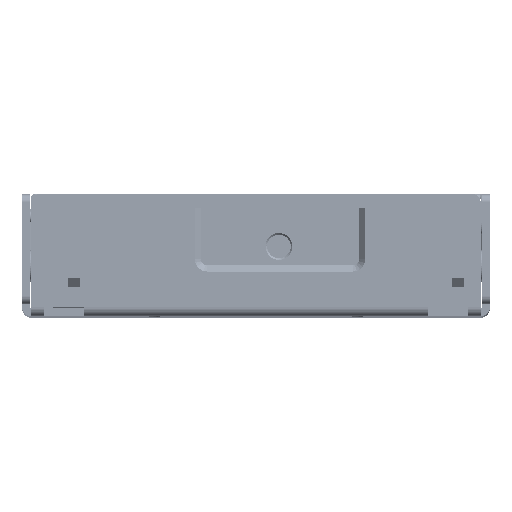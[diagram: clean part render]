
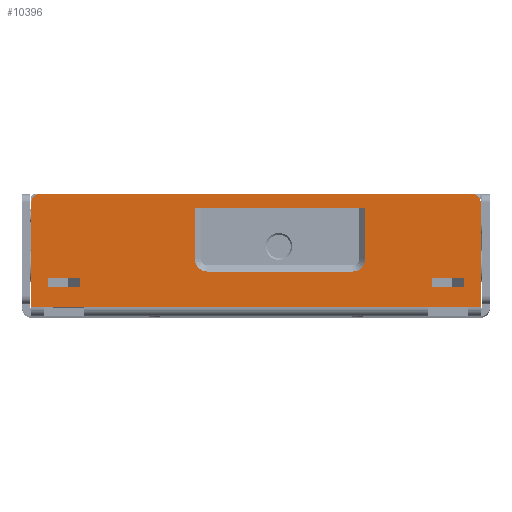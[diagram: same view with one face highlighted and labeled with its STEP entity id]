
A CAD part, top view. The second image highlights one B-rep face of the part: STEP entity #10396.
In plain terms, the highlighted planar face has unit normal (0, 0, 1).
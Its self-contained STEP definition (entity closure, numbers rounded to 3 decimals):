
#842=DIRECTION('',(1.,0.,0.));
#843=VECTOR('',#842,84.56);
#844=CARTESIAN_POINT('',(-42.28,2.3,107.5));
#845=LINE('',#844,#843);
#860=DIRECTION('',(1.,0.,0.));
#861=VECTOR('',#860,9.84);
#862=CARTESIAN_POINT('',(42.28,2.3,107.5));
#863=LINE('',#862,#861);
#868=DIRECTION('',(0.,1.,0.));
#869=VECTOR('',#868,0.7);
#870=CARTESIAN_POINT('',(-55.2,2.3,107.5));
#871=LINE('',#870,#869);
#872=CARTESIAN_POINT('',(-53.2,28.,107.5));
#873=DIRECTION('',(0.,0.,-1.));
#874=DIRECTION('',(-1.,0.,0.));
#875=AXIS2_PLACEMENT_3D('',#872,#873,#874);
#877=CARTESIAN_POINT('',(53.2,28.,107.5));
#878=DIRECTION('',(0.,0.,-1.));
#879=DIRECTION('',(0.,1.,0.));
#880=AXIS2_PLACEMENT_3D('',#877,#878,#879);
#882=DIRECTION('',(0.,-1.,0.));
#883=VECTOR('',#882,2.);
#884=CARTESIAN_POINT('',(-51.2,9.3,107.5));
#885=LINE('',#884,#883);
#886=DIRECTION('',(1.,0.,0.));
#887=VECTOR('',#886,8.);
#888=CARTESIAN_POINT('',(-51.2,7.3,107.5));
#889=LINE('',#888,#887);
#890=CARTESIAN_POINT('',(-12.,14.,107.5));
#891=DIRECTION('',(0.,0.,1.));
#892=DIRECTION('',(-1.,0.,0.));
#893=AXIS2_PLACEMENT_3D('',#890,#891,#892);
#895=CARTESIAN_POINT('',(23.8,14.,107.5));
#896=DIRECTION('',(0.,0.,1.));
#897=DIRECTION('',(0.,-1.,0.));
#898=AXIS2_PLACEMENT_3D('',#895,#896,#897);
#900=DIRECTION('',(0.,-1.,0.));
#901=VECTOR('',#900,2.);
#902=CARTESIAN_POINT('',(43.2,9.3,107.5));
#903=LINE('',#902,#901);
#904=DIRECTION('',(1.,0.,0.));
#905=VECTOR('',#904,8.);
#906=CARTESIAN_POINT('',(43.2,7.3,107.5));
#907=LINE('',#906,#905);
#908=DIRECTION('',(1.,0.,0.));
#909=VECTOR('',#908,9.84);
#910=CARTESIAN_POINT('',(-52.12,2.3,107.5));
#911=LINE('',#910,#909);
#1030=DIRECTION('',(1.,0.,0.));
#1031=VECTOR('',#1030,3.08);
#1032=CARTESIAN_POINT('',(52.12,2.3,107.5));
#1033=LINE('',#1032,#1031);
#1052=DIRECTION('',(0.,1.,0.));
#1053=VECTOR('',#1052,0.7);
#1054=CARTESIAN_POINT('',(55.2,2.3,107.5));
#1055=LINE('',#1054,#1053);
#1060=DIRECTION('',(0.,1.,0.));
#1061=VECTOR('',#1060,25.);
#1062=CARTESIAN_POINT('',(55.2,3.,107.5));
#1063=LINE('',#1062,#1061);
#1076=DIRECTION('',(-1.,0.,0.));
#1077=VECTOR('',#1076,24.038);
#1078=CARTESIAN_POINT('',(53.2,30.,107.5));
#1079=LINE('',#1078,#1077);
#1080=DIRECTION('',(-1.,0.,0.));
#1081=VECTOR('',#1080,46.536);
#1082=CARTESIAN_POINT('',(29.162,30.,107.5));
#1083=LINE('',#1082,#1081);
#1088=DIRECTION('',(-1.,0.,0.));
#1089=VECTOR('',#1088,35.826);
#1090=CARTESIAN_POINT('',(-17.374,30.,107.5));
#1091=LINE('',#1090,#1089);
#1100=DIRECTION('',(0.,-1.,0.));
#1101=VECTOR('',#1100,25.);
#1102=CARTESIAN_POINT('',(-55.2,28.,107.5));
#1103=LINE('',#1102,#1101);
#1134=DIRECTION('',(1.,0.,0.));
#1135=VECTOR('',#1134,3.08);
#1136=CARTESIAN_POINT('',(-55.2,2.3,107.5));
#1137=LINE('',#1136,#1135);
#3555=DIRECTION('',(1.,0.,0.));
#3556=VECTOR('',#3555,8.);
#3557=CARTESIAN_POINT('',(-51.2,9.3,107.5));
#3558=LINE('',#3557,#3556);
#3571=DIRECTION('',(0.,-1.,0.));
#3572=VECTOR('',#3571,2.);
#3573=CARTESIAN_POINT('',(-43.2,9.3,107.5));
#3574=LINE('',#3573,#3572);
#3667=DIRECTION('',(1.,0.,0.));
#3668=VECTOR('',#3667,41.8);
#3669=CARTESIAN_POINT('',(-15.,26.5,107.5));
#3670=LINE('',#3669,#3668);
#3683=DIRECTION('',(0.,-1.,0.));
#3684=VECTOR('',#3683,12.5);
#3685=CARTESIAN_POINT('',(26.8,26.5,107.5));
#3686=LINE('',#3685,#3684);
#3695=DIRECTION('',(-1.,0.,0.));
#3696=VECTOR('',#3695,35.8);
#3697=CARTESIAN_POINT('',(23.8,11.,107.5));
#3698=LINE('',#3697,#3696);
#3707=DIRECTION('',(0.,1.,0.));
#3708=VECTOR('',#3707,12.5);
#3709=CARTESIAN_POINT('',(-15.,14.,107.5));
#3710=LINE('',#3709,#3708);
#3865=DIRECTION('',(1.,0.,0.));
#3866=VECTOR('',#3865,8.);
#3867=CARTESIAN_POINT('',(43.2,9.3,107.5));
#3868=LINE('',#3867,#3866);
#3881=DIRECTION('',(0.,-1.,0.));
#3882=VECTOR('',#3881,2.);
#3883=CARTESIAN_POINT('',(51.2,9.3,107.5));
#3884=LINE('',#3883,#3882);
#8511=CARTESIAN_POINT('',(-42.28,2.3,107.5));
#8512=VERTEX_POINT('',#8511);
#8515=CARTESIAN_POINT('',(42.28,2.3,107.5));
#8516=VERTEX_POINT('',#8515);
#8519=CARTESIAN_POINT('',(52.12,2.3,107.5));
#8520=VERTEX_POINT('',#8519);
#8523=CARTESIAN_POINT('',(-52.12,2.3,107.5));
#8524=VERTEX_POINT('',#8523);
#8525=CARTESIAN_POINT('',(-55.2,2.3,107.5));
#8526=VERTEX_POINT('',#8525);
#8527=CARTESIAN_POINT('',(-55.2,3.,107.5));
#8528=VERTEX_POINT('',#8527);
#8529=CARTESIAN_POINT('',(-55.2,28.,107.5));
#8530=VERTEX_POINT('',#8529);
#8531=CARTESIAN_POINT('',(-53.2,30.,107.5));
#8532=VERTEX_POINT('',#8531);
#8533=CARTESIAN_POINT('',(-17.374,30.,107.5));
#8534=VERTEX_POINT('',#8533);
#8535=CARTESIAN_POINT('',(29.162,30.,107.5));
#8536=VERTEX_POINT('',#8535);
#8537=CARTESIAN_POINT('',(53.2,30.,107.5));
#8538=VERTEX_POINT('',#8537);
#8539=CARTESIAN_POINT('',(55.2,28.,107.5));
#8540=VERTEX_POINT('',#8539);
#8541=CARTESIAN_POINT('',(55.2,3.,107.5));
#8542=VERTEX_POINT('',#8541);
#8543=CARTESIAN_POINT('',(55.2,2.3,107.5));
#8544=VERTEX_POINT('',#8543);
#8545=CARTESIAN_POINT('',(-51.2,9.3,107.5));
#8546=CARTESIAN_POINT('',(-43.2,9.3,107.5));
#8547=VERTEX_POINT('',#8545);
#8548=VERTEX_POINT('',#8546);
#8549=CARTESIAN_POINT('',(-51.2,7.3,107.5));
#8550=VERTEX_POINT('',#8549);
#8551=CARTESIAN_POINT('',(-43.2,7.3,107.5));
#8552=VERTEX_POINT('',#8551);
#8553=CARTESIAN_POINT('',(-15.,26.5,107.5));
#8554=CARTESIAN_POINT('',(26.8,26.5,107.5));
#8555=VERTEX_POINT('',#8553);
#8556=VERTEX_POINT('',#8554);
#8557=CARTESIAN_POINT('',(-15.,14.,107.5));
#8558=VERTEX_POINT('',#8557);
#8559=CARTESIAN_POINT('',(-12.,11.,107.5));
#8560=VERTEX_POINT('',#8559);
#8561=CARTESIAN_POINT('',(23.8,11.,107.5));
#8562=VERTEX_POINT('',#8561);
#8563=CARTESIAN_POINT('',(26.8,14.,107.5));
#8564=VERTEX_POINT('',#8563);
#8565=CARTESIAN_POINT('',(43.2,9.3,107.5));
#8566=CARTESIAN_POINT('',(51.2,9.3,107.5));
#8567=VERTEX_POINT('',#8565);
#8568=VERTEX_POINT('',#8566);
#8569=CARTESIAN_POINT('',(43.2,7.3,107.5));
#8570=VERTEX_POINT('',#8569);
#8571=CARTESIAN_POINT('',(51.2,7.3,107.5));
#8572=VERTEX_POINT('',#8571);
#10329=CARTESIAN_POINT('',(55.2,0.,107.5));
#10330=DIRECTION('',(0.,0.,1.));
#10331=DIRECTION('',(1.,0.,0.));
#10332=AXIS2_PLACEMENT_3D('',#10329,#10330,#10331);
#10333=PLANE('',#10332);
#10334=ORIENTED_EDGE('',*,*,#10294,.F.);
#10336=ORIENTED_EDGE('',*,*,#10335,.F.);
#10338=ORIENTED_EDGE('',*,*,#10337,.F.);
#10340=ORIENTED_EDGE('',*,*,#10339,.T.);
#10342=ORIENTED_EDGE('',*,*,#10341,.F.);
#10344=ORIENTED_EDGE('',*,*,#10343,.T.);
#10346=ORIENTED_EDGE('',*,*,#10345,.F.);
#10348=ORIENTED_EDGE('',*,*,#10347,.F.);
#10350=ORIENTED_EDGE('',*,*,#10349,.F.);
#10352=ORIENTED_EDGE('',*,*,#10351,.T.);
#10354=ORIENTED_EDGE('',*,*,#10353,.F.);
#10356=ORIENTED_EDGE('',*,*,#10355,.F.);
#10358=ORIENTED_EDGE('',*,*,#10357,.F.);
#10359=ORIENTED_EDGE('',*,*,#10319,.F.);
#10360=EDGE_LOOP('',(#10334,#10336,#10338,#10340,#10342,#10344,#10346,#10348,
#10350,#10352,#10354,#10356,#10358,#10359));
#10361=FACE_OUTER_BOUND('',#10360,.F.);
#10363=ORIENTED_EDGE('',*,*,#10362,.F.);
#10365=ORIENTED_EDGE('',*,*,#10364,.T.);
#10367=ORIENTED_EDGE('',*,*,#10366,.T.);
#10369=ORIENTED_EDGE('',*,*,#10368,.F.);
#10370=EDGE_LOOP('',(#10363,#10365,#10367,#10369));
#10371=FACE_BOUND('',#10370,.F.);
#10373=ORIENTED_EDGE('',*,*,#10372,.F.);
#10375=ORIENTED_EDGE('',*,*,#10374,.F.);
#10377=ORIENTED_EDGE('',*,*,#10376,.T.);
#10379=ORIENTED_EDGE('',*,*,#10378,.F.);
#10381=ORIENTED_EDGE('',*,*,#10380,.T.);
#10383=ORIENTED_EDGE('',*,*,#10382,.F.);
#10384=EDGE_LOOP('',(#10373,#10375,#10377,#10379,#10381,#10383));
#10385=FACE_BOUND('',#10384,.F.);
#10387=ORIENTED_EDGE('',*,*,#10386,.F.);
#10389=ORIENTED_EDGE('',*,*,#10388,.T.);
#10391=ORIENTED_EDGE('',*,*,#10390,.T.);
#10393=ORIENTED_EDGE('',*,*,#10392,.F.);
#10394=EDGE_LOOP('',(#10387,#10389,#10391,#10393));
#10395=FACE_BOUND('',#10394,.F.);
#876=CIRCLE('',#875,2.);
#881=CIRCLE('',#880,2.);
#894=CIRCLE('',#893,3.);
#899=CIRCLE('',#898,3.);
#10294=EDGE_CURVE('',#8512,#8516,#845,.T.);
#10319=EDGE_CURVE('',#8516,#8520,#863,.T.);
#10335=EDGE_CURVE('',#8524,#8512,#911,.T.);
#10337=EDGE_CURVE('',#8526,#8524,#1137,.T.);
#10339=EDGE_CURVE('',#8526,#8528,#871,.T.);
#10341=EDGE_CURVE('',#8530,#8528,#1103,.T.);
#10343=EDGE_CURVE('',#8530,#8532,#876,.T.);
#10345=EDGE_CURVE('',#8534,#8532,#1091,.T.);
#10347=EDGE_CURVE('',#8536,#8534,#1083,.T.);
#10349=EDGE_CURVE('',#8538,#8536,#1079,.T.);
#10351=EDGE_CURVE('',#8538,#8540,#881,.T.);
#10353=EDGE_CURVE('',#8542,#8540,#1063,.T.);
#10355=EDGE_CURVE('',#8544,#8542,#1055,.T.);
#10357=EDGE_CURVE('',#8520,#8544,#1033,.T.);
#10362=EDGE_CURVE('',#8547,#8548,#3558,.T.);
#10364=EDGE_CURVE('',#8547,#8550,#885,.T.);
#10366=EDGE_CURVE('',#8550,#8552,#889,.T.);
#10368=EDGE_CURVE('',#8548,#8552,#3574,.T.);
#10372=EDGE_CURVE('',#8555,#8556,#3670,.T.);
#10374=EDGE_CURVE('',#8558,#8555,#3710,.T.);
#10376=EDGE_CURVE('',#8558,#8560,#894,.T.);
#10378=EDGE_CURVE('',#8562,#8560,#3698,.T.);
#10380=EDGE_CURVE('',#8562,#8564,#899,.T.);
#10382=EDGE_CURVE('',#8556,#8564,#3686,.T.);
#10386=EDGE_CURVE('',#8567,#8568,#3868,.T.);
#10388=EDGE_CURVE('',#8567,#8570,#903,.T.);
#10390=EDGE_CURVE('',#8570,#8572,#907,.T.);
#10392=EDGE_CURVE('',#8568,#8572,#3884,.T.);
#10396=ADVANCED_FACE('',(#10361,#10371,#10385,#10395),#10333,.T.);
